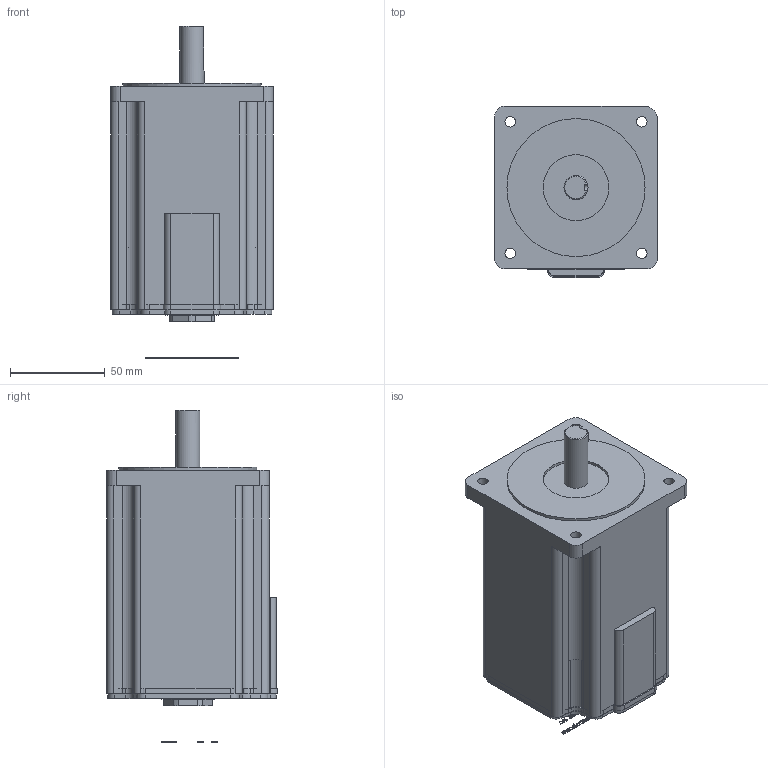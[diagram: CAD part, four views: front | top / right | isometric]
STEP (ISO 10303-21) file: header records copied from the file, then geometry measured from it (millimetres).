
FILE_DESCRIPTION(/* description */ ('Alibre Inc.'),/* implementation_level */ '2;1');
FILE_NAME(/* name */ 'export0',/* time_stamp */ '2008-02-05T12:57:53-08:00',/* author */ (''),/* organization */ (''),/* preprocessor_version */ 'ST-DEVELOPER v10',/* originating_system */ 'Alibre',/* authorisation */ '');
FILE_SCHEMA (('ALIBRE_SCHEMA','CONFIG_CONTROL_DESIGN'));
Length unit declared in the file: centimetre
Products named in the file (9): ID_1
Bounding box: 86.11 x 90.42 x 175.51 mm (x, y, z)
Volume: 833992.6 mm3; surface area: 107883.7 mm2
Topology: 63 solids, 64 shells, 1451 faces, 3910 edges, 2572 vertices
Faces by surface type: plane 696, bspline 573, cylinder 165, cone 15, torus 2
Full cylindrical faces by diameter (mm): 1.216 x14, 2.286 x6, 5.537 x4, 9.525 x2, 12.7 x1, 14.732 x1, 15.24 x1, 16 x1, 19.99 x1, 21.996 x2, 23 x1, 24.435 x1, 25.4 x2, 27.94 x1, 27.991 x1, 34.798 x1, 73.025 x1
Entity records: 79888 total; most frequent: CARTESIAN_POINT 19554, ORIENTED_EDGE 7780, DIRECTION 5173, CONSTRAINTPAIRUV 4993, EDGE_CURVE 3859, PERSISTANTTOPOLOGYATTRIBUTE 3539, VECTOR 3343, REFERENCEPOINTUV 3165
